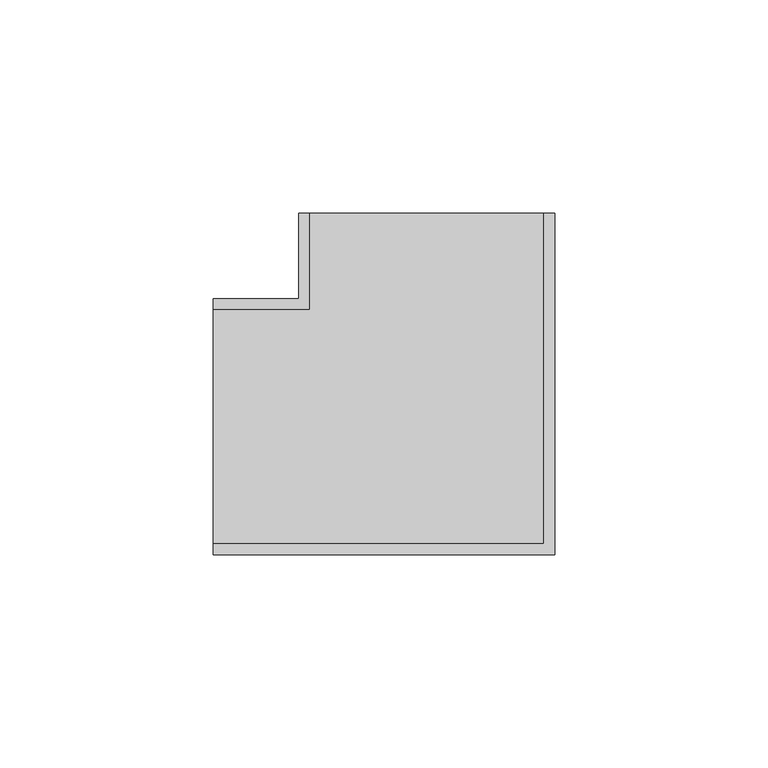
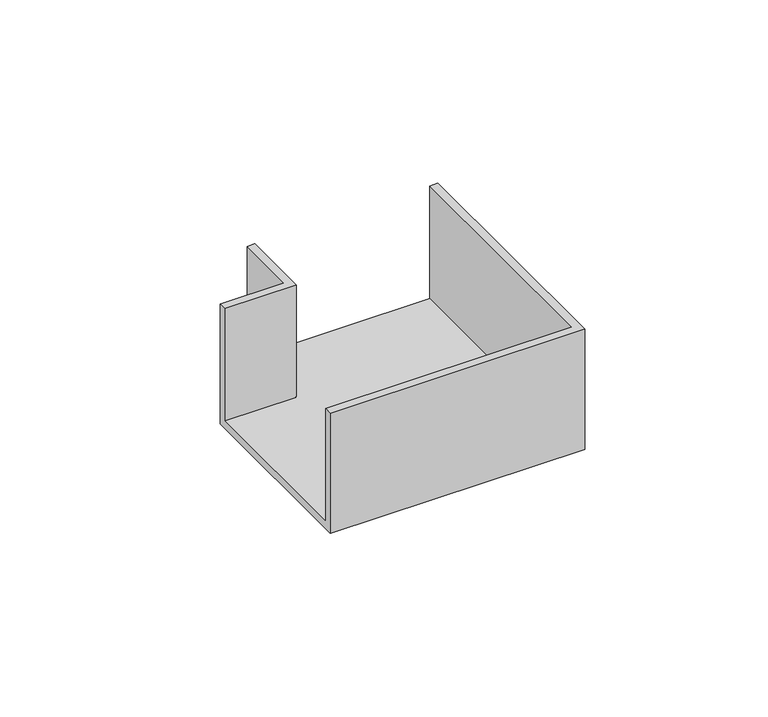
"""IFC4 building model written with IfcOpenShell, lengths in millimetres: cable carrier fitting geometry, КНС_УголПлоский NPAN_ILC_DKC : Угол плоский NPAN_DKC."""

from ifc_helpers import new_model, si_unit, origin, place, context, project, spatial, faceted_brep, source, transform, mapped, element, save


def cable_carrier_fitting_df3f1705(model_context):
    return source(origin(), model_context, "Body", "Brep", [
        faceted_brep([(-50.0, 30.0, -20.0), (-50.0, -30.0, -20.0), (-50.0, -30.0, 20.0), (-50.0, -27.5, 20.0), (-50.0, -27.5, -17.5), (-50.0, 27.5, -17.5), (-50.0, 27.5, 20.0), (-50.0, 30.0, 20.0), (-30.0, 30.0, -20.0), (-30.0, 50.0, -20.0), (30.0, 50.0, -20.0), (30.0, -30.0, -20.0), (30.0, -30.0, 20.0), (30.0, 50.0, 20.0), (27.5, 50.0, 20.0), (27.5, -27.5, 20.0), (27.5, -27.5, -17.5), (27.5, 50.0, -17.5), (-27.5, 50.0, -17.5), (-27.5, 27.5, -17.5), (-27.5, 27.5, 20.0), (-27.5, 50.0, 20.0), (-30.0, 50.0, 20.0), (-30.0, 30.0, 20.0)], [[[0, 1, 2, 3, 4, 5, 6, 7]], [[1, 0, 8, 9, 10, 11]], [[2, 1, 11, 12]], [[3, 2, 12, 13, 14, 15]], [[4, 3, 15, 16]], [[5, 4, 16, 17, 18, 19]], [[6, 5, 19, 20]], [[7, 6, 20, 21, 22, 23]], [[0, 7, 23, 8]], [[9, 22, 21, 18, 17, 14, 13, 10]], [[12, 11, 10, 13]], [[16, 15, 14, 17]], [[20, 19, 18, 21]], [[8, 23, 22, 9]]]),
    ])


if __name__ == "__main__":
    model = new_model("IFC4")
    model_context = context("Model", 3, world=origin())
    ifc_project = project(units=[si_unit("LENGTHUNIT", "METRE", prefix="MILLI")], contexts=[model_context])
    site = spatial("IfcSite", under=ifc_project)
    building = spatial("IfcBuilding", under=site)
    placement = place(None, origin())
    cable_carrier_fitting_shape = cable_carrier_fitting_df3f1705(model_context)
    element("IfcCableCarrierFitting", 1, ObjectType="КНС_УголПлоский NPAN_ILC_DKC : Угол плоский NPAN_DKC", at=placement, inside=building, context=model_context, shape_type="MappedRepresentation", body=[
        mapped(cable_carrier_fitting_shape, transform((0.0, 0.0, 0.0), x_axis=(1.0, 0.0, 0.0), y_axis=(0.0, 1.0, 0.0), z_axis=(0.0, 0.0, 1.0))),
    ])
    save(model, "model.ifc")
